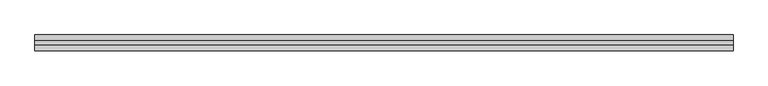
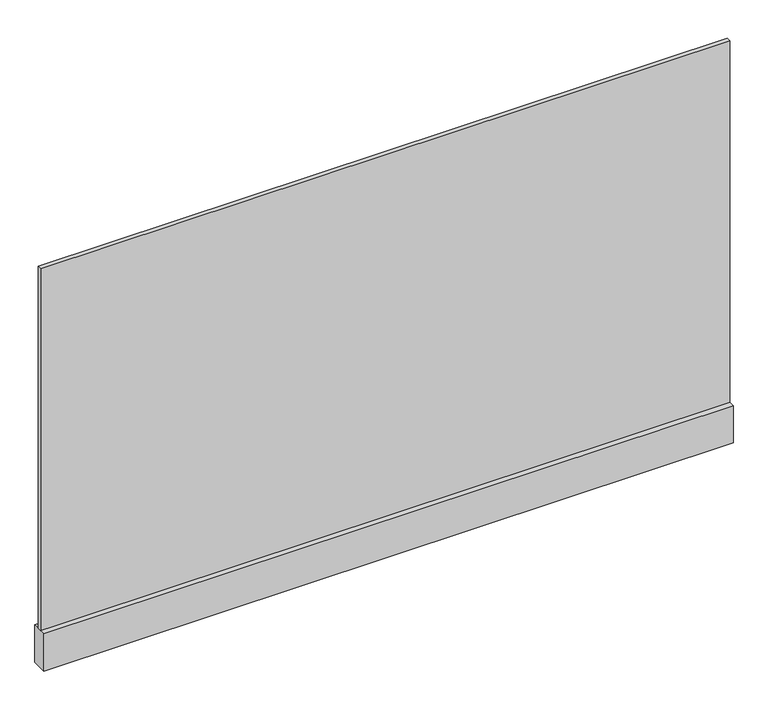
"""IFC4 building model written with IfcOpenShell, lengths in millimetres: plate geometry, r パネル FIX 下框付 : 框 H100."""

from ifc_helpers import new_model, si_unit, frame, origin, origin_with_axes, place, context, project, spatial, polyline, outline, extrude, source, transform, mapped, element, save


def plate_5aac5250(model_context):
    return source(origin(), model_context, "Body", "SweptSolid", [
        extrude(outline(polyline([(-878.3333334, 5.0), (878.3333334, 5.0), (878.3333334, -5.0), (-878.3333334, -5.0), (-878.3333334, 5.0)])), frame((0.0, 0.0, 100.0), z_axis=(0.0, 0.0, 1.0), x_axis=(1.0, 0.0, 0.0)), (0.0, 0.0, 1.0), 975.0),
        extrude(outline(polyline([(-878.3333334, 20.0), (878.3333334, 20.0), (878.3333334, -20.0), (-878.3333334, -20.0), (-878.3333334, 20.0)])), origin_with_axes(), (0.0, 0.0, 1.0), 100.0),
    ])


if __name__ == "__main__":
    model = new_model("IFC4")
    model_context = context("Model", 3, world=origin())
    ifc_project = project(units=[si_unit("LENGTHUNIT", "METRE", prefix="MILLI")], contexts=[model_context])
    site = spatial("IfcSite", under=ifc_project)
    building = spatial("IfcBuilding", under=site)
    placement = place(None, origin())
    plate_shape = plate_5aac5250(model_context)
    element("IfcPlate", 1, ObjectType="r パネル FIX 下框付 : 框 H100", at=placement, inside=building, context=model_context, shape_type="MappedRepresentation", body=[
        mapped(plate_shape, transform((0.0, 0.0, 0.0), x_axis=(1.0, 0.0, 0.0), y_axis=(0.0, 1.0, 0.0), z_axis=(0.0, 0.0, 1.0))),
    ])
    save(model, "model.ifc")
